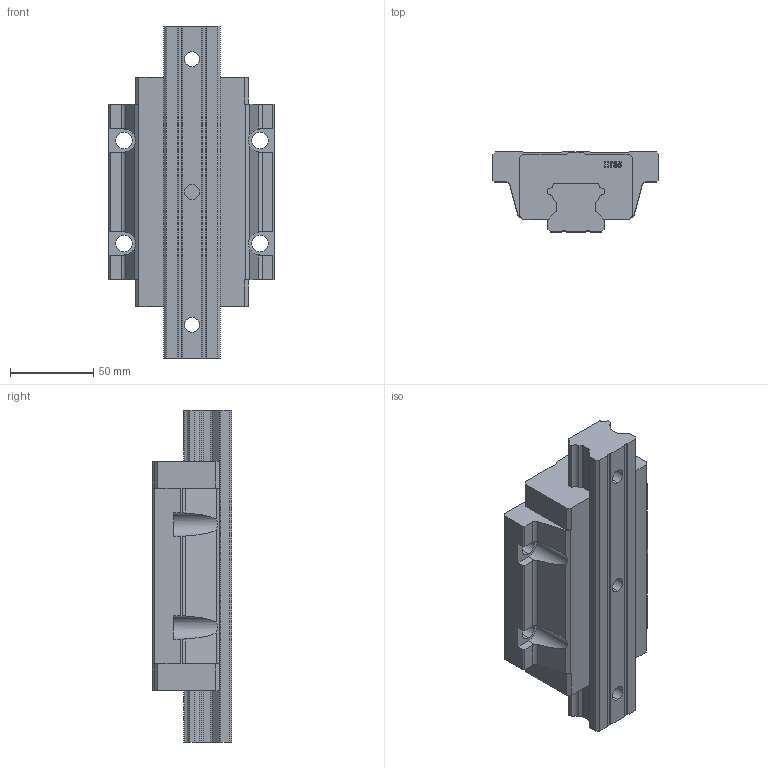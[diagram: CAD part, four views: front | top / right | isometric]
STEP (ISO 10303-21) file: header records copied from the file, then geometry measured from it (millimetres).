
FILE_DESCRIPTION (( 'STEP AP214' ), '1' );
FILE_NAME ('7.1012 Lineaarikelkka HTW35HA.STEP', '2026-03-11T11:17:07', ( '' ), ( '' ), 'SwSTEP 2.0', 'SolidWorks 2025', '' );
FILE_SCHEMA (( 'AUTOMOTIVE_DESIGN' ));
Length unit declared in the file: millimetre
Products named in the file (3): HTW35; HTR35; 7.1012 Lineaarikelkka HTW35HA
Assembly tree (2 placements, depth 2):
  7.1012 Lineaarikelkka HTW35HA
    HTW35
    HTR35
Bounding box: 100 x 48 x 200 mm (x, y, z)
Volume: 518719.9 mm3; surface area: 79897.9 mm2
Topology: 2 solids, 2 shells, 744 faces, 2109 edges, 1406 vertices
Faces by surface type: plane 671, cylinder 48, bspline 25
Entity records: 34353 total; most frequent: CARTESIAN_POINT 6817, ORIENTED_EDGE 4218, DIRECTION 3579, EDGE_CURVE 2109, LINE 1947, VECTOR 1947, VERTEX_POINT 1406, AXIS2_PLACEMENT_3D 816
